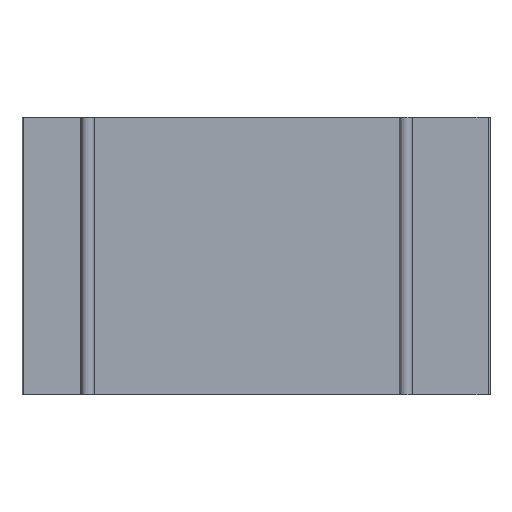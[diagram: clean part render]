
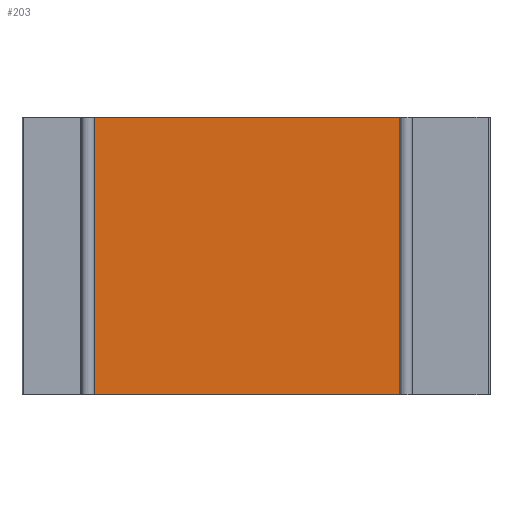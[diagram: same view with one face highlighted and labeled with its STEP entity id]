
A CAD part, front view. The second image highlights one B-rep face of the part: STEP entity #203.
In plain terms, the highlighted planar face has unit normal (0, -1, 0).
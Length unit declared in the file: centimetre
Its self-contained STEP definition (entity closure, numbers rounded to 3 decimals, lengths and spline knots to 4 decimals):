
#11 = DIRECTION ( 'NONE',  ( 0., 0., -1. ) ) ;
#69 = ORIENTED_EDGE ( 'NONE', *, *, #1422, .F. ) ;
#93 = DIRECTION ( 'NONE',  ( 0., 0., -1. ) ) ;
#203 = ADVANCED_FACE ( 'NONE', ( #1045 ), #564, .T. ) ;
#382 = ORIENTED_EDGE ( 'NONE', *, *, #611, .F. ) ;
#492 = CARTESIAN_POINT ( 'NONE',  ( -17.3, -5., -14.8 ) ) ;
#509 = LINE ( 'NONE', #831, #1125 ) ;
#564 = PLANE ( 'NONE',  #2001 ) ;
#611 = EDGE_CURVE ( 'NONE', #919, #1004, #1365, .T. ) ;
#717 = LINE ( 'NONE', #2062, #1333 ) ;
#752 = DIRECTION ( 'NONE',  ( 0., -1., 0. ) ) ;
#831 = CARTESIAN_POINT ( 'NONE',  ( 21.6, -5., -14.8 ) ) ;
#919 = VERTEX_POINT ( 'NONE', #1026 ) ;
#1004 = VERTEX_POINT ( 'NONE', #1949 ) ;
#1013 = DIRECTION ( 'NONE',  ( 0., 0., 1. ) ) ;
#1026 = CARTESIAN_POINT ( 'NONE',  ( 15.3, -5., 14.8 ) ) ;
#1045 = FACE_OUTER_BOUND ( 'NONE', #1821, .T. ) ;
#1125 = VECTOR ( 'NONE', #1339, 100. ) ;
#1261 = CARTESIAN_POINT ( 'NONE',  ( -12.4, -5., -14.8 ) ) ;
#1303 = CARTESIAN_POINT ( 'NONE',  ( -17.3, -5., 14.8 ) ) ;
#1304 = LINE ( 'NONE', #1651, #1386 ) ;
#1308 = VECTOR ( 'NONE', #93, 100. ) ;
#1333 = VECTOR ( 'NONE', #1013, 100. ) ;
#1339 = DIRECTION ( 'NONE',  ( 1., 0., 0. ) ) ;
#1354 = VERTEX_POINT ( 'NONE', #1303 ) ;
#1365 = LINE ( 'NONE', #2072, #1308 ) ;
#1386 = VECTOR ( 'NONE', #2207, 100. ) ;
#1403 = EDGE_CURVE ( 'NONE', #2078, #1004, #509, .T. ) ;
#1422 = EDGE_CURVE ( 'NONE', #2078, #1354, #717, .T. ) ;
#1651 = CARTESIAN_POINT ( 'NONE',  ( 21.6, -5., 14.8 ) ) ;
#1821 = EDGE_LOOP ( 'NONE', ( #382, #1988, #69, #2256 ) ) ;
#1949 = CARTESIAN_POINT ( 'NONE',  ( 15.3, -5., -14.8 ) ) ;
#1988 = ORIENTED_EDGE ( 'NONE', *, *, #2245, .F. ) ;
#2001 = AXIS2_PLACEMENT_3D ( 'NONE', #1261, #752, #11 ) ;
#2062 = CARTESIAN_POINT ( 'NONE',  ( -17.3, -5., -16.7799 ) ) ;
#2072 = CARTESIAN_POINT ( 'NONE',  ( 15.3, -5., -16.7799 ) ) ;
#2078 = VERTEX_POINT ( 'NONE', #492 ) ;
#2207 = DIRECTION ( 'NONE',  ( 1., 0., 0. ) ) ;
#2245 = EDGE_CURVE ( 'NONE', #1354, #919, #1304, .T. ) ;
#2256 = ORIENTED_EDGE ( 'NONE', *, *, #1403, .T. ) ;
